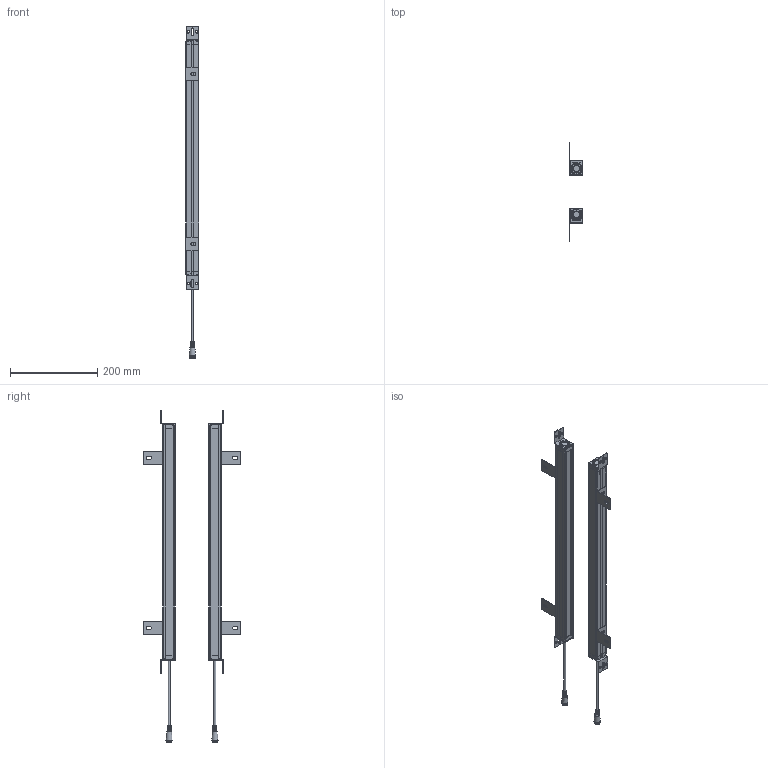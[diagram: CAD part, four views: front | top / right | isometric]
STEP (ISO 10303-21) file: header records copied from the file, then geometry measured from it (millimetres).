
FILE_DESCRIPTION(/* description */ (''),/* implementation_level */ '2;1');
FILE_NAME(/* name */ '2620（29x30）.stp',/* time_stamp */ '2023-04-28T14:45:11+08:00',/* author */ (''),/* organization */ (''),/* preprocessor_version */ 'ST-DEVELOPER v16.7',/* originating_system */ 'SIEMENS PLM Software NX 12.0',/* authorisation */ '');
FILE_SCHEMA (('AUTOMOTIVE_DESIGN { 1 0 10303 214 3 1 1 1 }'));
Products named in the file (1): 3020（29x30）_stp
Bounding box: 32.03 x 223.99 x 761 mm (x, y, z)
Volume: 361387.6 mm3; surface area: 375581 mm2
Topology: 34 solids, 34 shells, 1610 faces, 4267 edges, 2771 vertices
Faces by surface type: plane 750, cylinder 648, bspline 88, sphere 36, cone 36, torus 32, extrusion 20
Full cylindrical faces by diameter (mm): 1.533 x6, 4.4 x4, 9 x2, 12.5 x2
Entity records: 56427 total; most frequent: CARTESIAN_POINT 16064, DIRECTION 8330, ORIENTED_EDGE 8324, EDGE_CURVE 4162, AXIS2_PLACEMENT_3D 2918, VERTEX_POINT 2696, VECTOR 2494, LINE 2474
